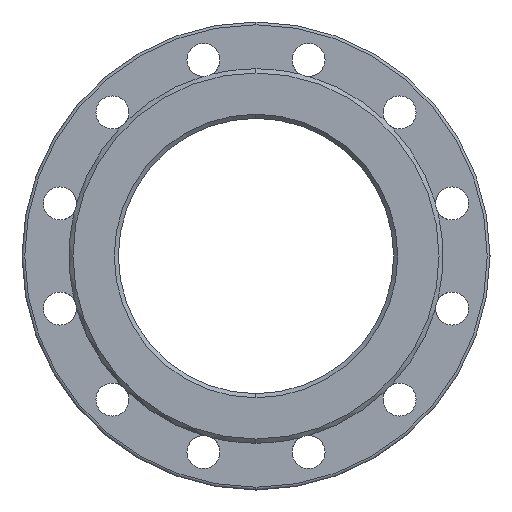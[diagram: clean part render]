
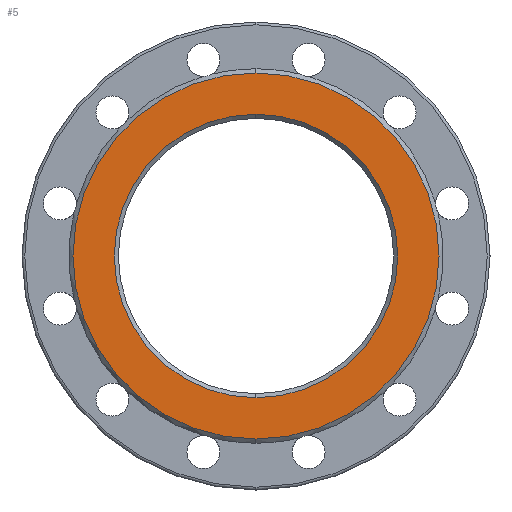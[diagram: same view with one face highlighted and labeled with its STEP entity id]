
A CAD part, left-side view. The second image highlights one B-rep face of the part: STEP entity #5.
In plain terms, the highlighted planar face has unit normal (-1, 0, 0).
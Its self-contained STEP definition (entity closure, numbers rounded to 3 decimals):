
#5 = ADVANCED_FACE ( 'Defeatured_0_4', ( #2764, #2792 ), #5039, .F. ) ;
#59 = VERTEX_POINT ( 'NONE', #5519 ) ;
#128 = CIRCLE ( 'NONE', #1378, 103. ) ;
#373 = EDGE_LOOP ( 'NONE', ( #3759, #3863 ) ) ;
#438 = DIRECTION ( 'NONE',  ( 0., 0., 1. ) ) ;
#608 = EDGE_CURVE ( 'Defeatured_0_4+Defeatured_0_24+Defeatured_0_24+Defeatured_0_24', #1733, #5646, #3537, .T. ) ;
#728 = EDGE_CURVE ( 'Defeatured_0_4+Defeatured_0_24+Defeatured_0_24+Defeatured_0_24', #5646, #1733, #128, .T. ) ;
#875 = DIRECTION ( 'NONE',  ( 1., 0., 0. ) ) ;
#884 = ORIENTED_EDGE ( 'NONE', *, *, #1501, .T. ) ;
#1105 = DIRECTION ( 'NONE',  ( 0., 0., -1. ) ) ;
#1129 = EDGE_CURVE ( 'Defeatured_0_4+Defeatured_0_0+Defeatured_0_0+Defeatured_0_0', #1276, #59, #5160, .T. ) ;
#1276 = VERTEX_POINT ( 'NONE', #4755 ) ;
#1375 = DIRECTION ( 'NONE',  ( 0., 0., 1. ) ) ;
#1378 = AXIS2_PLACEMENT_3D ( 'NONE', #2041, #3899, #1589 ) ;
#1501 = EDGE_CURVE ( 'Defeatured_0_4+Defeatured_0_0+Defeatured_0_0+Defeatured_0_0', #59, #1276, #4696, .T. ) ;
#1589 = DIRECTION ( 'NONE',  ( 0., 0., -1. ) ) ;
#1704 = ORIENTED_EDGE ( 'NONE', *, *, #1129, .T. ) ;
#1733 = VERTEX_POINT ( 'NONE', #2599 ) ;
#1833 = CARTESIAN_POINT ( 'NONE',  ( -350., 0., 0. ) ) ;
#1988 = CARTESIAN_POINT ( 'NONE',  ( -350., 0., 0. ) ) ;
#2041 = CARTESIAN_POINT ( 'NONE',  ( -350., 0., 0. ) ) ;
#2072 = AXIS2_PLACEMENT_3D ( 'NONE', #5105, #2828, #438 ) ;
#2302 = DIRECTION ( 'NONE',  ( 0., 0., -1. ) ) ;
#2554 = AXIS2_PLACEMENT_3D ( 'NONE', #1833, #5537, #1375 ) ;
#2599 = CARTESIAN_POINT ( 'NONE',  ( -350., 0., 103. ) ) ;
#2653 = AXIS2_PLACEMENT_3D ( 'NONE', #1988, #4698, #1105 ) ;
#2764 = FACE_BOUND ( 'NONE', #373, .T. ) ;
#2776 = EDGE_LOOP ( 'NONE', ( #1704, #884 ) ) ;
#2792 = FACE_OUTER_BOUND ( 'NONE', #2776, .T. ) ;
#2828 = DIRECTION ( 'NONE',  ( -1., 0., 0. ) ) ;
#3537 = CIRCLE ( 'NONE', #2653, 103. ) ;
#3676 = CARTESIAN_POINT ( 'NONE',  ( -350., 100., 0. ) ) ;
#3759 = ORIENTED_EDGE ( 'NONE', *, *, #608, .T. ) ;
#3863 = ORIENTED_EDGE ( 'NONE', *, *, #728, .T. ) ;
#3899 = DIRECTION ( 'NONE',  ( 1., 0., 0. ) ) ;
#4589 = AXIS2_PLACEMENT_3D ( 'NONE', #3676, #875, #2302 ) ;
#4696 = CIRCLE ( 'NONE', #2072, 133. ) ;
#4698 = DIRECTION ( 'NONE',  ( 1., 0., 0. ) ) ;
#4755 = CARTESIAN_POINT ( 'NONE',  ( -350., 0., -133. ) ) ;
#4793 = CARTESIAN_POINT ( 'NONE',  ( -350., 0., -103. ) ) ;
#5039 = PLANE ( 'NONE',  #4589 ) ;
#5105 = CARTESIAN_POINT ( 'NONE',  ( -350., 0., 0. ) ) ;
#5160 = CIRCLE ( 'NONE', #2554, 133. ) ;
#5519 = CARTESIAN_POINT ( 'NONE',  ( -350., 0., 133. ) ) ;
#5537 = DIRECTION ( 'NONE',  ( -1., 0., 0. ) ) ;
#5646 = VERTEX_POINT ( 'NONE', #4793 ) ;
